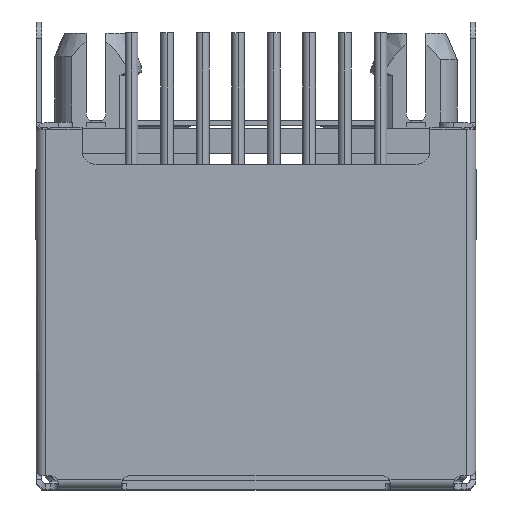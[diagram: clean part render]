
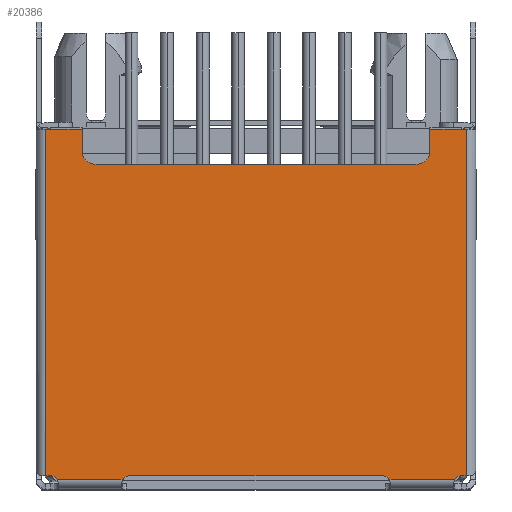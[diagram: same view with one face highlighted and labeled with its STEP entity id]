
A CAD part, top view. The second image highlights one B-rep face of the part: STEP entity #20386.
In plain terms, the highlighted planar face has unit normal (0, 0, 1).
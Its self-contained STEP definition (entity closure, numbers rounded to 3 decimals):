
#142 = CARTESIAN_POINT ( 'NONE',  ( -6.21, 0.05, 0.3 ) ) ;
#146 = VECTOR ( 'NONE', #9759, 1000. ) ;
#292 = AXIS2_PLACEMENT_3D ( 'NONE', #14801, #11245, #1122 ) ;
#407 = EDGE_CURVE ( 'NONE', #13930, #2129, #15558, .T. ) ;
#428 = VERTEX_POINT ( 'NONE', #14037 ) ;
#490 = DIRECTION ( 'NONE',  ( 0., -1., 0. ) ) ;
#585 = CARTESIAN_POINT ( 'NONE',  ( -7.35, -0.12, 0.3 ) ) ;
#588 = EDGE_CURVE ( 'NONE', #7929, #13930, #8460, .T. ) ;
#960 = CARTESIAN_POINT ( 'NONE',  ( 7.65, 0.18, 0.3 ) ) ;
#986 = DIRECTION ( 'NONE',  ( 0., 0., -1. ) ) ;
#1058 = EDGE_CURVE ( 'NONE', #428, #2321, #21794, .T. ) ;
#1122 = DIRECTION ( 'NONE',  ( 0., 1., 0. ) ) ;
#1212 = ORIENTED_EDGE ( 'NONE', *, *, #13478, .T. ) ;
#1260 = CARTESIAN_POINT ( 'NONE',  ( 6.21, 0.05, 0.3 ) ) ;
#1330 = VECTOR ( 'NONE', #13261, 1000. ) ;
#1583 = CARTESIAN_POINT ( 'NONE',  ( 6.21, 11.79, 0.3 ) ) ;
#1652 = DIRECTION ( 'NONE',  ( 0., -1., 0. ) ) ;
#2061 = ORIENTED_EDGE ( 'NONE', *, *, #3994, .T. ) ;
#2108 = LINE ( 'NONE', #19114, #17022 ) ;
#2127 = ORIENTED_EDGE ( 'NONE', *, *, #407, .T. ) ;
#2129 = VERTEX_POINT ( 'NONE', #12001 ) ;
#2163 = CIRCLE ( 'NONE', #14970, 0.5 ) ;
#2321 = VERTEX_POINT ( 'NONE', #8771 ) ;
#2464 = EDGE_CURVE ( 'NONE', #7506, #7308, #22000, .T. ) ;
#2610 = LINE ( 'NONE', #14405, #3064 ) ;
#2819 = LINE ( 'NONE', #1260, #13962 ) ;
#2913 = CARTESIAN_POINT ( 'NONE',  ( 7.35, 0.18, 0.3 ) ) ;
#3064 = VECTOR ( 'NONE', #21302, 1000. ) ;
#3146 = EDGE_CURVE ( 'NONE', #6827, #19510, #14130, .T. ) ;
#3276 = DIRECTION ( 'NONE',  ( -1., 0., 0. ) ) ;
#3994 = EDGE_CURVE ( 'NONE', #7308, #14157, #4375, .T. ) ;
#3998 = CARTESIAN_POINT ( 'NONE',  ( 7.103, 0.05, 0.3 ) ) ;
#4017 = DIRECTION ( 'NONE',  ( -1., 0., 0. ) ) ;
#4313 = CARTESIAN_POINT ( 'NONE',  ( -5.71, 11.29, 0.3 ) ) ;
#4325 = VECTOR ( 'NONE', #11677, 1000. ) ;
#4375 = LINE ( 'NONE', #18035, #15323 ) ;
#4878 = ORIENTED_EDGE ( 'NONE', *, *, #8775, .F. ) ;
#5071 = ORIENTED_EDGE ( 'NONE', *, *, #11234, .T. ) ;
#5076 = EDGE_CURVE ( 'NONE', #6036, #12867, #9698, .T. ) ;
#5276 = VERTEX_POINT ( 'NONE', #12794 ) ;
#5439 = CARTESIAN_POINT ( 'NONE',  ( 6.21, 12.55, 0.3 ) ) ;
#5495 = PLANE ( 'NONE',  #14941 ) ;
#5885 = CARTESIAN_POINT ( 'NONE',  ( 7.35, -0.12, 0.3 ) ) ;
#5975 = VERTEX_POINT ( 'NONE', #14189 ) ;
#6036 = VERTEX_POINT ( 'NONE', #1583 ) ;
#6123 = DIRECTION ( 'NONE',  ( 0., 1., 0. ) ) ;
#6201 = CARTESIAN_POINT ( 'NONE',  ( 4.747, 0.05, 0.3 ) ) ;
#6391 = EDGE_CURVE ( 'NONE', #9043, #5975, #2163, .T. ) ;
#6480 = CARTESIAN_POINT ( 'NONE',  ( 7.5, 0.18, 0.3 ) ) ;
#6567 = CARTESIAN_POINT ( 'NONE',  ( -7.677, 12.55, 0.3 ) ) ;
#6692 = DIRECTION ( 'NONE',  ( 0., -1., 0. ) ) ;
#6818 = ORIENTED_EDGE ( 'NONE', *, *, #20289, .F. ) ;
#6827 = VERTEX_POINT ( 'NONE', #17973 ) ;
#6913 = CARTESIAN_POINT ( 'NONE',  ( 5.71, 11.79, 0.3 ) ) ;
#7308 = VERTEX_POINT ( 'NONE', #2913 ) ;
#7484 = DIRECTION ( 'NONE',  ( 0., 1., 0. ) ) ;
#7506 = VERTEX_POINT ( 'NONE', #3998 ) ;
#7779 = CIRCLE ( 'NONE', #292, 0.3 ) ;
#7929 = VERTEX_POINT ( 'NONE', #18864 ) ;
#8142 = LINE ( 'NONE', #9714, #18932 ) ;
#8287 = LINE ( 'NONE', #15072, #12447 ) ;
#8392 = CARTESIAN_POINT ( 'NONE',  ( -4.5, 0.18, 0.3 ) ) ;
#8460 = LINE ( 'NONE', #11821, #1330 ) ;
#8771 = CARTESIAN_POINT ( 'NONE',  ( -6.21, 12.55, 0.3 ) ) ;
#8775 = EDGE_CURVE ( 'NONE', #7506, #20100, #15110, .T. ) ;
#9043 = VERTEX_POINT ( 'NONE', #4313 ) ;
#9698 = CIRCLE ( 'NONE', #10747, 0.5 ) ;
#9714 = CARTESIAN_POINT ( 'NONE',  ( -7.5, 0.05, 0.3 ) ) ;
#9720 = EDGE_CURVE ( 'NONE', #5975, #2321, #18604, .T. ) ;
#9759 = DIRECTION ( 'NONE',  ( 1., 0., 0. ) ) ;
#10174 = DIRECTION ( 'NONE',  ( 0., 0., 1. ) ) ;
#10490 = CARTESIAN_POINT ( 'NONE',  ( 7.65, 0.05, 0.3 ) ) ;
#10605 = CARTESIAN_POINT ( 'NONE',  ( 4.5, -0.12, 0.3 ) ) ;
#10747 = AXIS2_PLACEMENT_3D ( 'NONE', #6913, #14927, #6692 ) ;
#10824 = CIRCLE ( 'NONE', #16492, 0.3 ) ;
#10841 = DIRECTION ( 'NONE',  ( 0., 0., -1. ) ) ;
#10876 = ORIENTED_EDGE ( 'NONE', *, *, #9720, .T. ) ;
#11058 = VERTEX_POINT ( 'NONE', #8392 ) ;
#11164 = EDGE_CURVE ( 'NONE', #14157, #6827, #2108, .T. ) ;
#11234 = EDGE_CURVE ( 'NONE', #5276, #11058, #7779, .T. ) ;
#11245 = DIRECTION ( 'NONE',  ( 0., 0., -1. ) ) ;
#11463 = CARTESIAN_POINT ( 'NONE',  ( 7.65, 0.05, 0.3 ) ) ;
#11677 = DIRECTION ( 'NONE',  ( -1., 0., 0. ) ) ;
#11682 = DIRECTION ( 'NONE',  ( 1., 0., 0. ) ) ;
#11821 = CARTESIAN_POINT ( 'NONE',  ( 7.65, 0.18, 0.3 ) ) ;
#12001 = CARTESIAN_POINT ( 'NONE',  ( -7.103, 0.05, 0.3 ) ) ;
#12048 = DIRECTION ( 'NONE',  ( 0., 1., 0. ) ) ;
#12160 = DIRECTION ( 'NONE',  ( 0., 0., -1. ) ) ;
#12422 = AXIS2_PLACEMENT_3D ( 'NONE', #5885, #986, #6123 ) ;
#12447 = VECTOR ( 'NONE', #3276, 1000. ) ;
#12560 = ORIENTED_EDGE ( 'NONE', *, *, #14099, .T. ) ;
#12748 = LINE ( 'NONE', #960, #146 ) ;
#12780 = ORIENTED_EDGE ( 'NONE', *, *, #3146, .T. ) ;
#12794 = CARTESIAN_POINT ( 'NONE',  ( -4.747, 0.05, 0.3 ) ) ;
#12867 = VERTEX_POINT ( 'NONE', #19700 ) ;
#12927 = ORIENTED_EDGE ( 'NONE', *, *, #1058, .F. ) ;
#13042 = DIRECTION ( 'NONE',  ( 1., 0., 0. ) ) ;
#13225 = EDGE_CURVE ( 'NONE', #11058, #21311, #12748, .T. ) ;
#13261 = DIRECTION ( 'NONE',  ( 1., 0., 0. ) ) ;
#13442 = CARTESIAN_POINT ( 'NONE',  ( -5.71, 11.79, 0.3 ) ) ;
#13478 = EDGE_CURVE ( 'NONE', #21311, #20100, #10824, .T. ) ;
#13648 = EDGE_CURVE ( 'NONE', #19510, #6036, #2819, .T. ) ;
#13739 = ORIENTED_EDGE ( 'NONE', *, *, #2464, .T. ) ;
#13930 = VERTEX_POINT ( 'NONE', #15474 ) ;
#13962 = VECTOR ( 'NONE', #17941, 1000. ) ;
#13969 = EDGE_LOOP ( 'NONE', ( #16022, #1212, #4878, #13739, #2061, #21113, #12780, #18641, #19252, #17630, #13985, #10876, #12927, #12560, #16700, #2127, #6818, #5071 ) ) ;
#13985 = ORIENTED_EDGE ( 'NONE', *, *, #6391, .T. ) ;
#14037 = CARTESIAN_POINT ( 'NONE',  ( -7.5, 12.55, 0.3 ) ) ;
#14099 = EDGE_CURVE ( 'NONE', #428, #7929, #8142, .T. ) ;
#14130 = LINE ( 'NONE', #19249, #20619 ) ;
#14157 = VERTEX_POINT ( 'NONE', #6480 ) ;
#14189 = CARTESIAN_POINT ( 'NONE',  ( -6.21, 11.79, 0.3 ) ) ;
#14405 = CARTESIAN_POINT ( 'NONE',  ( 7.65, 11.29, 0.3 ) ) ;
#14801 = CARTESIAN_POINT ( 'NONE',  ( -4.5, -0.12, 0.3 ) ) ;
#14921 = DIRECTION ( 'NONE',  ( 0., -1., 0. ) ) ;
#14927 = DIRECTION ( 'NONE',  ( 0., 0., -1. ) ) ;
#14941 = AXIS2_PLACEMENT_3D ( 'NONE', #10490, #10174, #490 ) ;
#14970 = AXIS2_PLACEMENT_3D ( 'NONE', #13442, #22005, #1652 ) ;
#15023 = VECTOR ( 'NONE', #12048, 1000. ) ;
#15072 = CARTESIAN_POINT ( 'NONE',  ( 7.65, 0.05, 0.3 ) ) ;
#15110 = LINE ( 'NONE', #11463, #4325 ) ;
#15179 = VECTOR ( 'NONE', #11682, 1000. ) ;
#15323 = VECTOR ( 'NONE', #13042, 1000. ) ;
#15338 = EDGE_CURVE ( 'NONE', #12867, #9043, #2610, .T. ) ;
#15474 = CARTESIAN_POINT ( 'NONE',  ( -7.35, 0.18, 0.3 ) ) ;
#15558 = CIRCLE ( 'NONE', #17318, 0.3 ) ;
#16022 = ORIENTED_EDGE ( 'NONE', *, *, #13225, .T. ) ;
#16492 = AXIS2_PLACEMENT_3D ( 'NONE', #10605, #10841, #17598 ) ;
#16700 = ORIENTED_EDGE ( 'NONE', *, *, #588, .T. ) ;
#17022 = VECTOR ( 'NONE', #17558, 1000. ) ;
#17318 = AXIS2_PLACEMENT_3D ( 'NONE', #585, #12160, #7484 ) ;
#17558 = DIRECTION ( 'NONE',  ( 0., 1., 0. ) ) ;
#17598 = DIRECTION ( 'NONE',  ( 0., 1., 0. ) ) ;
#17630 = ORIENTED_EDGE ( 'NONE', *, *, #15338, .T. ) ;
#17941 = DIRECTION ( 'NONE',  ( 0., -1., 0. ) ) ;
#17973 = CARTESIAN_POINT ( 'NONE',  ( 7.5, 12.55, 0.3 ) ) ;
#18035 = CARTESIAN_POINT ( 'NONE',  ( 7.65, 0.18, 0.3 ) ) ;
#18604 = LINE ( 'NONE', #142, #15023 ) ;
#18641 = ORIENTED_EDGE ( 'NONE', *, *, #13648, .T. ) ;
#18712 = FACE_OUTER_BOUND ( 'NONE', #13969, .T. ) ;
#18864 = CARTESIAN_POINT ( 'NONE',  ( -7.5, 0.18, 0.3 ) ) ;
#18932 = VECTOR ( 'NONE', #14921, 1000. ) ;
#19114 = CARTESIAN_POINT ( 'NONE',  ( 7.5, 0.05, 0.3 ) ) ;
#19249 = CARTESIAN_POINT ( 'NONE',  ( 0., 12.55, 0.3 ) ) ;
#19252 = ORIENTED_EDGE ( 'NONE', *, *, #5076, .T. ) ;
#19414 = CARTESIAN_POINT ( 'NONE',  ( 4.5, 0.18, 0.3 ) ) ;
#19510 = VERTEX_POINT ( 'NONE', #5439 ) ;
#19700 = CARTESIAN_POINT ( 'NONE',  ( 5.71, 11.29, 0.3 ) ) ;
#20100 = VERTEX_POINT ( 'NONE', #6201 ) ;
#20289 = EDGE_CURVE ( 'NONE', #5276, #2129, #8287, .T. ) ;
#20386 = ADVANCED_FACE ( 'NONE', ( #18712 ), #5495, .T. ) ;
#20619 = VECTOR ( 'NONE', #4017, 1000. ) ;
#21113 = ORIENTED_EDGE ( 'NONE', *, *, #11164, .T. ) ;
#21302 = DIRECTION ( 'NONE',  ( -1., 0., 0. ) ) ;
#21311 = VERTEX_POINT ( 'NONE', #19414 ) ;
#21794 = LINE ( 'NONE', #6567, #15179 ) ;
#22000 = CIRCLE ( 'NONE', #12422, 0.3 ) ;
#22005 = DIRECTION ( 'NONE',  ( 0., 0., -1. ) ) ;
